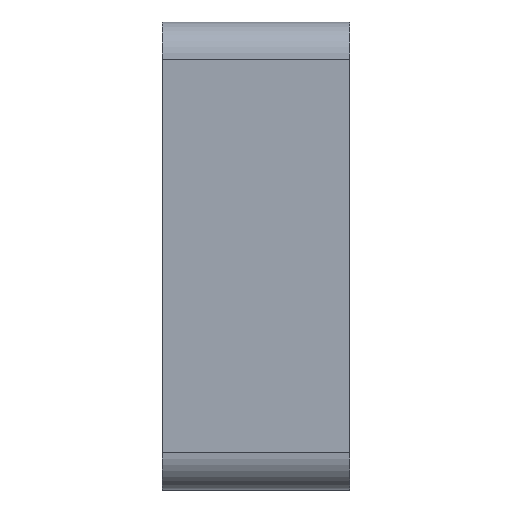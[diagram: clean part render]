
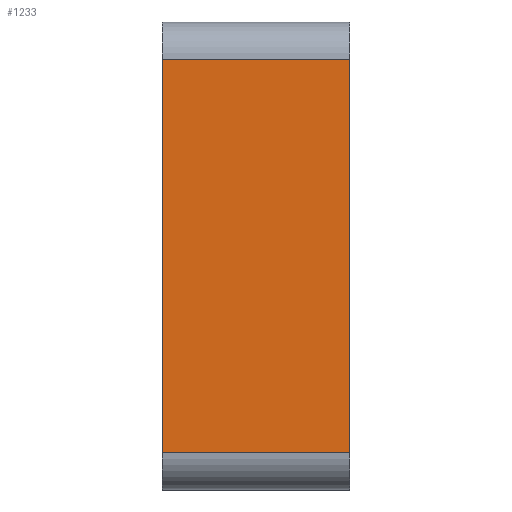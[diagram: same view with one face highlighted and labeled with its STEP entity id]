
A CAD part, front view. The second image highlights one B-rep face of the part: STEP entity #1233.
In plain terms, the highlighted planar face has unit normal (0, -1, 0).
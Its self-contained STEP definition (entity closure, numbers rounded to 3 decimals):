
#44 = PLANE('',#45);
#45 = AXIS2_PLACEMENT_3D('',#46,#47,#48);
#46 = CARTESIAN_POINT('',(75.,50.,50.));
#47 = DIRECTION('',(1.,0.,0.));
#48 = DIRECTION('',(-0.,0.,1.));
#72 = CYLINDRICAL_SURFACE('',#73,8.);
#73 = AXIS2_PLACEMENT_3D('',#74,#75,#76);
#74 = CARTESIAN_POINT('',(75.,8.,8.));
#75 = DIRECTION('',(1.,0.,0.));
#76 = DIRECTION('',(0.,0.,-1.));
#100 = PLANE('',#101);
#101 = AXIS2_PLACEMENT_3D('',#102,#103,#104);
#102 = CARTESIAN_POINT('',(115.,50.,50.));
#103 = DIRECTION('',(1.,0.,0.));
#104 = DIRECTION('',(-0.,0.,1.));
#252 = VERTEX_POINT('',#253);
#253 = CARTESIAN_POINT('',(75.,0.,92.));
#268 = CYLINDRICAL_SURFACE('',#269,8.);
#269 = AXIS2_PLACEMENT_3D('',#270,#271,#272);
#270 = CARTESIAN_POINT('',(75.,8.,92.));
#271 = DIRECTION('',(1.,0.,0.));
#272 = DIRECTION('',(0.,-0.,1.));
#280 = EDGE_CURVE('',#252,#281,#283,.T.);
#281 = VERTEX_POINT('',#282);
#282 = CARTESIAN_POINT('',(75.,0.,8.));
#283 = SURFACE_CURVE('',#284,(#288,#295),.PCURVE_S1.);
#284 = LINE('',#285,#286);
#285 = CARTESIAN_POINT('',(75.,0.,100.));
#286 = VECTOR('',#287,1.);
#287 = DIRECTION('',(0.,0.,-1.));
#288 = PCURVE('',#44,#289);
#289 = DEFINITIONAL_REPRESENTATION('',(#290),#294);
#290 = LINE('',#291,#292);
#291 = CARTESIAN_POINT('',(50.,50.));
#292 = VECTOR('',#293,1.);
#293 = DIRECTION('',(-1.,0.));
#294 = ( GEOMETRIC_REPRESENTATION_CONTEXT(2) 
PARAMETRIC_REPRESENTATION_CONTEXT() REPRESENTATION_CONTEXT('2D SPACE',''
  ) );
#295 = PCURVE('',#296,#301);
#296 = PLANE('',#297);
#297 = AXIS2_PLACEMENT_3D('',#298,#299,#300);
#298 = CARTESIAN_POINT('',(75.,0.,100.));
#299 = DIRECTION('',(-0.,1.,0.));
#300 = DIRECTION('',(0.,0.,-1.));
#301 = DEFINITIONAL_REPRESENTATION('',(#302),#306);
#302 = LINE('',#303,#304);
#303 = CARTESIAN_POINT('',(0.,0.));
#304 = VECTOR('',#305,1.);
#305 = DIRECTION('',(1.,0.));
#306 = ( GEOMETRIC_REPRESENTATION_CONTEXT(2) 
PARAMETRIC_REPRESENTATION_CONTEXT() REPRESENTATION_CONTEXT('2D SPACE',''
  ) );
#443 = EDGE_CURVE('',#281,#444,#446,.T.);
#444 = VERTEX_POINT('',#445);
#445 = CARTESIAN_POINT('',(115.,0.,8.));
#446 = SURFACE_CURVE('',#447,(#451,#458),.PCURVE_S1.);
#447 = LINE('',#448,#449);
#448 = CARTESIAN_POINT('',(75.,0.,8.));
#449 = VECTOR('',#450,1.);
#450 = DIRECTION('',(1.,0.,0.));
#451 = PCURVE('',#72,#452);
#452 = DEFINITIONAL_REPRESENTATION('',(#453),#457);
#453 = LINE('',#454,#455);
#454 = CARTESIAN_POINT('',(-1.571,0.));
#455 = VECTOR('',#456,1.);
#456 = DIRECTION('',(-0.,1.));
#457 = ( GEOMETRIC_REPRESENTATION_CONTEXT(2) 
PARAMETRIC_REPRESENTATION_CONTEXT() REPRESENTATION_CONTEXT('2D SPACE',''
  ) );
#458 = PCURVE('',#296,#459);
#459 = DEFINITIONAL_REPRESENTATION('',(#460),#464);
#460 = LINE('',#461,#462);
#461 = CARTESIAN_POINT('',(92.,0.));
#462 = VECTOR('',#463,1.);
#463 = DIRECTION('',(0.,-1.));
#464 = ( GEOMETRIC_REPRESENTATION_CONTEXT(2) 
PARAMETRIC_REPRESENTATION_CONTEXT() REPRESENTATION_CONTEXT('2D SPACE',''
  ) );
#619 = VERTEX_POINT('',#620);
#620 = CARTESIAN_POINT('',(115.,0.,92.));
#642 = EDGE_CURVE('',#619,#444,#643,.T.);
#643 = SURFACE_CURVE('',#644,(#648,#655),.PCURVE_S1.);
#644 = LINE('',#645,#646);
#645 = CARTESIAN_POINT('',(115.,0.,100.));
#646 = VECTOR('',#647,1.);
#647 = DIRECTION('',(0.,0.,-1.));
#648 = PCURVE('',#100,#649);
#649 = DEFINITIONAL_REPRESENTATION('',(#650),#654);
#650 = LINE('',#651,#652);
#651 = CARTESIAN_POINT('',(50.,50.));
#652 = VECTOR('',#653,1.);
#653 = DIRECTION('',(-1.,0.));
#654 = ( GEOMETRIC_REPRESENTATION_CONTEXT(2) 
PARAMETRIC_REPRESENTATION_CONTEXT() REPRESENTATION_CONTEXT('2D SPACE',''
  ) );
#655 = PCURVE('',#296,#656);
#656 = DEFINITIONAL_REPRESENTATION('',(#657),#661);
#657 = LINE('',#658,#659);
#658 = CARTESIAN_POINT('',(0.,-40.));
#659 = VECTOR('',#660,1.);
#660 = DIRECTION('',(1.,0.));
#661 = ( GEOMETRIC_REPRESENTATION_CONTEXT(2) 
PARAMETRIC_REPRESENTATION_CONTEXT() REPRESENTATION_CONTEXT('2D SPACE',''
  ) );
#1233 = ADVANCED_FACE('',(#1234),#296,.F.);
#1234 = FACE_BOUND('',#1235,.F.);
#1235 = EDGE_LOOP('',(#1236,#1237,#1258,#1259));
#1236 = ORIENTED_EDGE('',*,*,#280,.F.);
#1237 = ORIENTED_EDGE('',*,*,#1238,.T.);
#1238 = EDGE_CURVE('',#252,#619,#1239,.T.);
#1239 = SURFACE_CURVE('',#1240,(#1244,#1251),.PCURVE_S1.);
#1240 = LINE('',#1241,#1242);
#1241 = CARTESIAN_POINT('',(75.,0.,92.));
#1242 = VECTOR('',#1243,1.);
#1243 = DIRECTION('',(1.,0.,0.));
#1244 = PCURVE('',#296,#1245);
#1245 = DEFINITIONAL_REPRESENTATION('',(#1246),#1250);
#1246 = LINE('',#1247,#1248);
#1247 = CARTESIAN_POINT('',(8.,0.));
#1248 = VECTOR('',#1249,1.);
#1249 = DIRECTION('',(0.,-1.));
#1250 = ( GEOMETRIC_REPRESENTATION_CONTEXT(2) 
PARAMETRIC_REPRESENTATION_CONTEXT() REPRESENTATION_CONTEXT('2D SPACE',''
  ) );
#1251 = PCURVE('',#268,#1252);
#1252 = DEFINITIONAL_REPRESENTATION('',(#1253),#1257);
#1253 = LINE('',#1254,#1255);
#1254 = CARTESIAN_POINT('',(1.571,0.));
#1255 = VECTOR('',#1256,1.);
#1256 = DIRECTION('',(0.,1.));
#1257 = ( GEOMETRIC_REPRESENTATION_CONTEXT(2) 
PARAMETRIC_REPRESENTATION_CONTEXT() REPRESENTATION_CONTEXT('2D SPACE',''
  ) );
#1258 = ORIENTED_EDGE('',*,*,#642,.T.);
#1259 = ORIENTED_EDGE('',*,*,#443,.F.);
